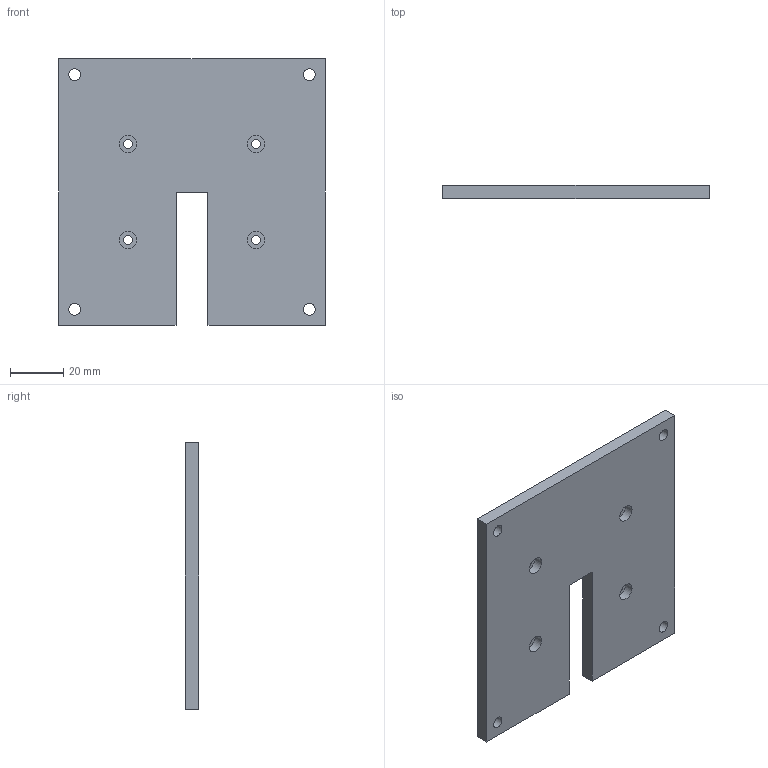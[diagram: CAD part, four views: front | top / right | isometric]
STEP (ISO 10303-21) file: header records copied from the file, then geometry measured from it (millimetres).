
FILE_DESCRIPTION(('Open CASCADE Model'),'2;1');
FILE_NAME('Open CASCADE Shape Model','2026-10-18T22:58:06',('Author'),( 'Open CASCADE'),'Open CASCADE STEP processor 7.9','Open CASCADE 7.9' ,'Unknown');
FILE_SCHEMA(('AUTOMOTIVE_DESIGN { 1 0 10303 214 1 1 1 1 }'));
Length unit declared in the file: millimetre
Products named in the file (1): Open CASCADE STEP translator 7.9 9
Bounding box: 100 x 5 x 100 mm (x, y, z)
Volume: 46142.8 mm3; surface area: 21768.5 mm2
Topology: 1 solids, 1 shells, 28 faces, 63 edges, 42 vertices
Faces by surface type: plane 15, cylinder 13
Full cylindrical faces by diameter (mm): 3 x1, 3.4 x4, 4.5 x4, 6.5 x4
Entity records: 1666 total; most frequent: CARTESIAN_POINT 320, DIRECTION 253, ORIENTED_EDGE 126, PCURVE 126, DEFINITIONAL_REPRESENTATION 126, LINE 125, VECTOR 125, EDGE_CURVE 63
